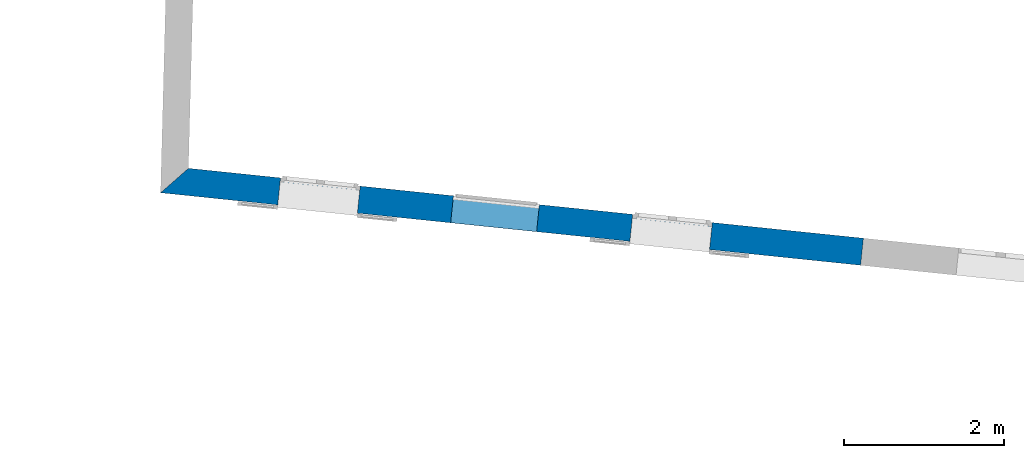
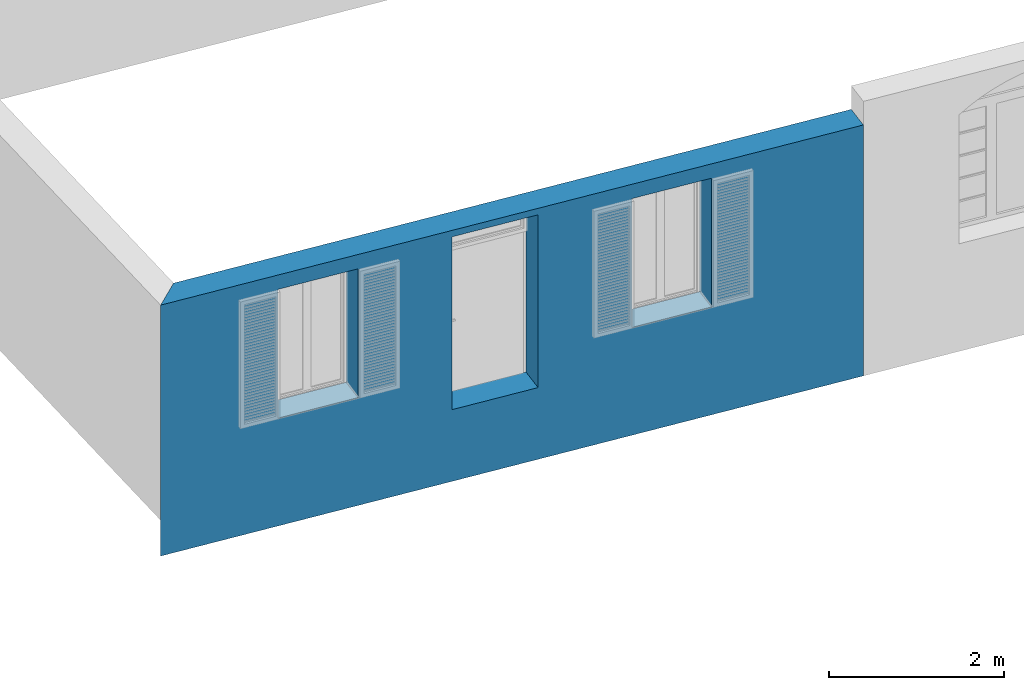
# One storey, part 83 of 171: 1 wall, 4 openings.
"""IFC2X3 building model written with IfcOpenShell, lengths in millimetres."""

from ifc_helpers import new_model, entity, si_unit, converted_unit, derived_unit, money_unit, direction, frame, origin_with_axes, origin_2d_with_axis, place, context, subcontext, project, spatial, polyline, rectangle, outline, extrude, material, layer, layer_set, layer_usage, type_object, element, save


model = new_model("IFC2X3")

# Units and contexts
model_context = context("Model", 3, precision=0.01, world=origin_with_axes(), true_north=direction((0.0, 1.0)))
body_context = subcontext(model_context, "Body", "Model", "MODEL_VIEW")
ifc_project = project(units=[si_unit("LENGTHUNIT", "METRE", prefix="MILLI"), si_unit("AREAUNIT", "SQUARE_METRE"), si_unit("VOLUMEUNIT", "CUBIC_METRE"), converted_unit("PLANEANGLEUNIT", "DEGREE", entity("IfcPlaneAngleMeasure", 0.0174532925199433), si_unit("PLANEANGLEUNIT", "RADIAN"), dimensions=[0, 0, 0, 0, 0, 0, 0]), money_unit("USD"), converted_unit("TIMEUNIT", "Year", entity("IfcTimeMeasure", 31557600.0), si_unit("TIMEUNIT", "SECOND"), dimensions=[0, 0, 1, 0, 0, 0, 0]), si_unit("MASSUNIT", "GRAM", prefix="KILO"), si_unit("THERMODYNAMICTEMPERATUREUNIT", "DEGREE_CELSIUS"), si_unit("LUMINOUSINTENSITYUNIT", "LUMEN"), si_unit("ENERGYUNIT", "JOULE", prefix="MEGA"), derived_unit("THERMALCONDUCTANCEUNIT", [(si_unit("POWERUNIT", "WATT"), 1), (si_unit("LENGTHUNIT", "METRE"), -1), (si_unit("THERMODYNAMICTEMPERATUREUNIT", "KELVIN"), -1)]), derived_unit("SPECIFICHEATCAPACITYUNIT", [(si_unit("ENERGYUNIT", "JOULE"), 1), (si_unit("MASSUNIT", "GRAM", prefix="KILO"), -1), (si_unit("THERMODYNAMICTEMPERATUREUNIT", "KELVIN"), -1)]), derived_unit("MASSDENSITYUNIT", [(si_unit("MASSUNIT", "GRAM", prefix="KILO"), 1), (si_unit("VOLUMEUNIT", "CUBIC_METRE"), -1)])], contexts=[model_context])

# Site, building, storey
site_placement = place(None, origin_with_axes())
site = spatial("IfcSite", under=ifc_project, at=site_placement, Name="Site", CompositionType="ELEMENT")
building_placement = place(site_placement, origin_with_axes())
building = spatial("IfcBuilding", under=site, at=building_placement, Name="Bâtiment", CompositionType="ELEMENT")
storey_placement = place(building_placement, frame((0.0, 0.0, 3000.0), z_axis=(0.0, 0.0, 1.0), x_axis=(1.0, 0.0, 0.0)))
storey = spatial("IfcBuildingStorey", under=building, at=storey_placement, Name="rdc", CompositionType="ELEMENT", Elevation=3000.0)

# Wall, openings
ifc_material = material(Name="Empty Fill 272047960")
ifc_layer = layer(ifc_material, 339.9999999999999, ventilated="UNKNOWN")
ifc_layer_set = layer_set([ifc_layer], Name="Empty Fill 272047960 340")
ifc_layer_usage = layer_usage(ifc_layer_set, "AXIS2", "NEGATIVE", 0.0)
wall_type = type_object("IfcWallType", Name="Empty Fill 272047960 340", PredefinedType="NOTDEFINED")
wall_placement = place(storey_placement, frame((2245882.942695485, -591753.5900529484, -500.0), z_axis=(0.0, 0.0, 1.0), x_axis=(-0.994678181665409, 0.1030306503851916, 0.0)))
wall = element("IfcWallStandardCase", 1, at=wall_placement, inside=storey, type_object=wall_type, material=ifc_layer_usage, Name="Mur-143", context=body_context, shape_type="SweptSolid", body=[
    extrude(outline(polyline([(0.0, -339.9999999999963), (8480.98711477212, -339.9999999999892), (8795.793367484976, 0.0), (-1.13686837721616e-10, 0.0), (0.0, -339.9999999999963)])), origin_with_axes(), (0.0, 0.0, 1.0), 3500.0),
])
opening_1_placement = place(wall_placement, frame((6823.329215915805, 0.0, 1500.0), z_axis=(0.0, 0.0, 1.0), x_axis=(1.0, 0.0, 0.0)))
element("IfcOpeningElement", 2, at=opening_1_placement, cuts=wall, Name="Fen-207", context=body_context, shape_type="SweptSolid", body=[
    extrude(rectangle(XDim=1000.000000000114, YDim=1800.0, at=origin_2d_with_axis()), frame((0.0, -289.999999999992, 900.0000000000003), z_axis=(0.0, -1.0, 0.0), x_axis=(-1.0, 0.0, 0.0)), (0.0, 0.0, -1.0), 629.9999999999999),
    extrude(rectangle(XDim=1000.000000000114, YDim=1800.0, at=origin_2d_with_axis()), frame((0.0, -289.9999999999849, 900.0000000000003), z_axis=(0.0, 1.0, 0.0), x_axis=(-1.0, 0.0, 0.0)), (0.0, 0.0, -1.0), 389.9999999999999),
])
opening_2_placement = place(wall_placement, frame((2398.957557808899, 0.0, 1500.0), z_axis=(0.0, 0.0, 1.0), x_axis=(1.0, 0.0, 0.0)))
element("IfcOpeningElement", 3, at=opening_2_placement, cuts=wall, Name="Fen-207", context=body_context, shape_type="SweptSolid", body=[
    extrude(rectangle(XDim=1000.000000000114, YDim=1800.0, at=origin_2d_with_axis()), frame((0.0, -289.999999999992, 900.0000000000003), z_axis=(0.0, 1.0, 0.0), x_axis=(1.0, 0.0, 0.0)), (0.0, 0.0, 1.0), 629.9999999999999),
    extrude(rectangle(XDim=1000.000000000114, YDim=1800.0, at=origin_2d_with_axis()), frame((0.0, -289.9999999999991, 900.0000000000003), z_axis=(0.0, -1.0, 0.0), x_axis=(1.0, 0.0, 0.0)), (0.0, 0.0, 1.0), 389.9999999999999),
])
opening_3_placement = place(wall_placement, frame((4611.143386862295, 0.0, 3000.0), z_axis=(0.0, 0.0, 1.0), x_axis=(1.0, 0.0, 0.0)))
element("IfcOpeningElement", 4, at=opening_3_placement, cuts=wall, Name="Fen-133", context=body_context, shape_type="SweptSolid", body=[
    extrude(rectangle(XDim=1080.000000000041, YDim=410.0000000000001, at=origin_2d_with_axis()), frame((1.13686837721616e-10, -289.999999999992, 205.0000000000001), z_axis=(0.0, -1.0, 0.0), x_axis=(-1.0, 0.0, 0.0)), (0.0, 0.0, -1.0), 629.9999999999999),
    extrude(rectangle(XDim=1079.999999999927, YDim=410.0000000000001, at=origin_2d_with_axis()), frame((1.13686837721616e-10, -289.999999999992, 205.0000000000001), z_axis=(0.0, 1.0, 0.0), x_axis=(-1.0, 0.0, 0.0)), (0.0, 0.0, -1.0), 389.9999999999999),
])
opening_4_placement = place(wall_placement, frame((4611.143386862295, 0.0, 1000.0), z_axis=(0.0, 0.0, 1.0), x_axis=(1.0, 0.0, 0.0)))
element("IfcOpeningElement", 5, at=opening_4_placement, cuts=wall, Name="Por-283", context=body_context, shape_type="SweptSolid", body=[
    extrude(rectangle(XDim=1080.000004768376, YDim=2080.0, at=origin_2d_with_axis()), frame((-2.384012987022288e-06, 340.0000000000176, 1040.0), z_axis=(0.0, -1.0, 0.0), x_axis=(-1.0, 0.0, 0.0)), (0.0, 0.0, 1.0), 679.9999999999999),
])

save(model, "model.ifc")
